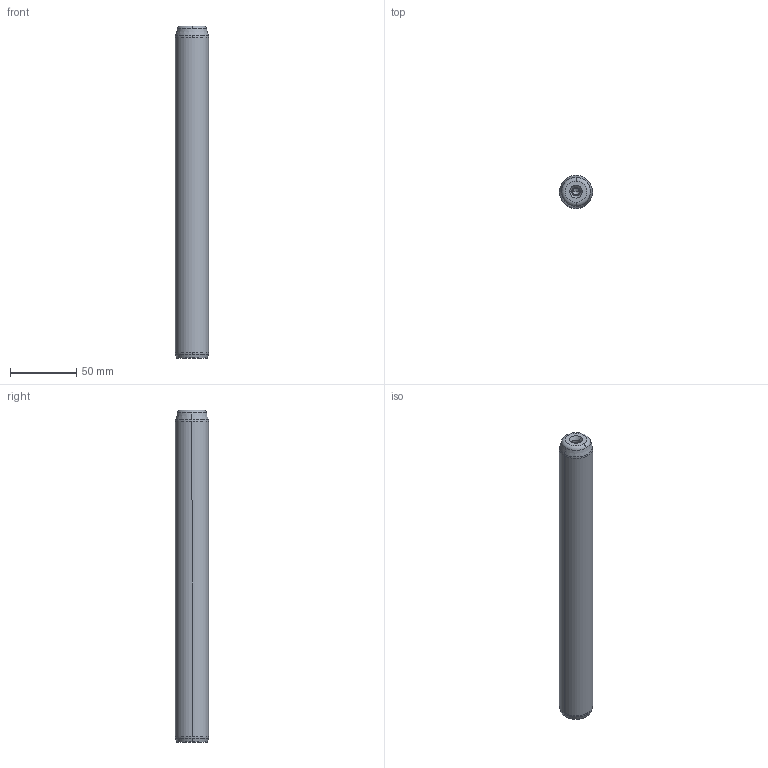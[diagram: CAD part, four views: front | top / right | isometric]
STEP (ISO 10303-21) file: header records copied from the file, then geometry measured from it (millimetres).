
FILE_DESCRIPTION((''),'2;1');
FILE_NAME('P10_025_250.stp','2008-12-23T14:56:01',(''),(''),'Mechanical Desktop 2009','Mechanical Desktop 2009',', , ');
FILE_SCHEMA(('CONFIG_CONTROL_DESIGN'));
Length unit declared in the file: millimetre
Products named in the file (5): Product; ProductAA; blmdl1; ProductA; blmdl1A
Assembly tree (2 placements, depth 3):
  Product
    ProductAA
      blmdl1
  ProductA
  blmdl1A
Bounding box: 25 x 25 x 250 mm (x, y, z)
Volume: 121349.8 mm3; surface area: 20637.9 mm2
Topology: 1 solids, 1 shells, 26 faces, 66 edges, 41 vertices
Faces by surface type: cone 10, torus 8, cylinder 6, plane 2
Entity records: 1012 total; most frequent: DIRECTION 170, CARTESIAN_POINT 134, ORIENTED_EDGE 128, AXIS2_PLACEMENT_3D 77, EDGE_CURVE 64, CIRCLE 48, VERTEX_POINT 41, EDGE_LOOP 27
